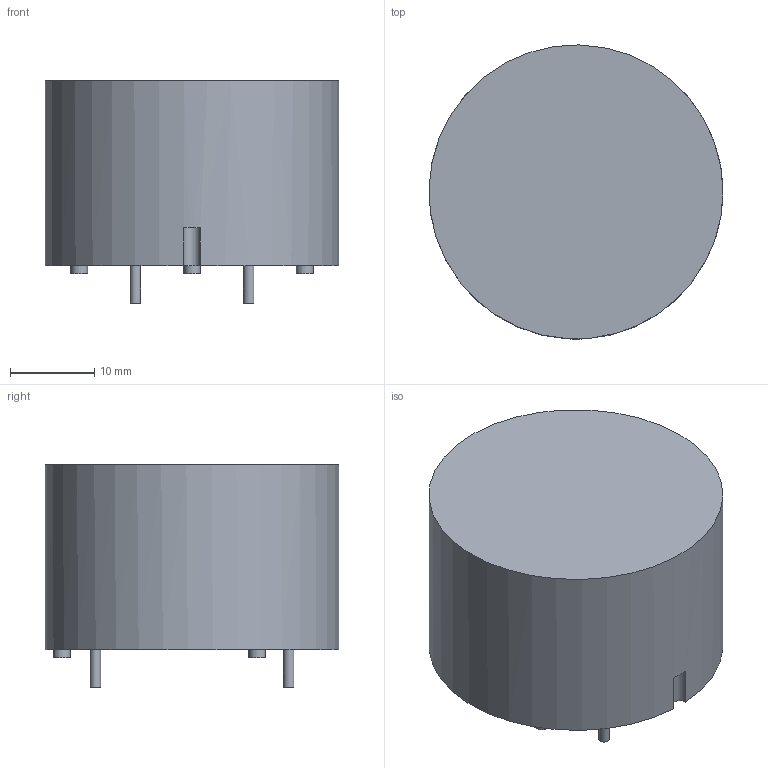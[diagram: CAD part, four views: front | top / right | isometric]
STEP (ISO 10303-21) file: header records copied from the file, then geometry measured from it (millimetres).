
FILE_DESCRIPTION(/* description */ (''),/* implementation_level */ '2;1');
FILE_NAME(/* name */ 'F:\Done\2016\产品3D模拟 新型号\修改针径\6123-X210\6123-X210 3D Drawing.stp',/* time_stamp */ '2016-07-11T10:03:18+08:00',/* author */ ('CN000562'),/* organization */ (''),/* preprocessor_version */ 'ST-DEVELOPER v16.5',/* originating_system */ 'Autodesk Inventor 2017',/* authorisation */ '');
FILE_SCHEMA (('AUTOMOTIVE_DESIGN { 1 0 10303 214 3 1 1 }'));
Length unit declared in the file: millimetre
Products named in the file (1): 6123-X316
Bounding box: 34.99 x 35 x 26.5 mm (x, y, z)
Volume: 21191 mm3; surface area: 4437.7 mm2
Topology: 1 solids, 1 shells, 19 faces, 30 edges, 20 vertices
Faces by surface type: plane 10, cylinder 9
Full cylindrical faces by diameter (mm): 1.25 x4, 2 x3, 35 x1
Entity records: 424 total; most frequent: DIRECTION 80, CARTESIAN_POINT 60, ORIENTED_EDGE 42, AXIS2_PLACEMENT_3D 39, EDGE_LOOP 34, EDGE_CURVE 21, FACE_OUTER_BOUND 19, CIRCLE 19
